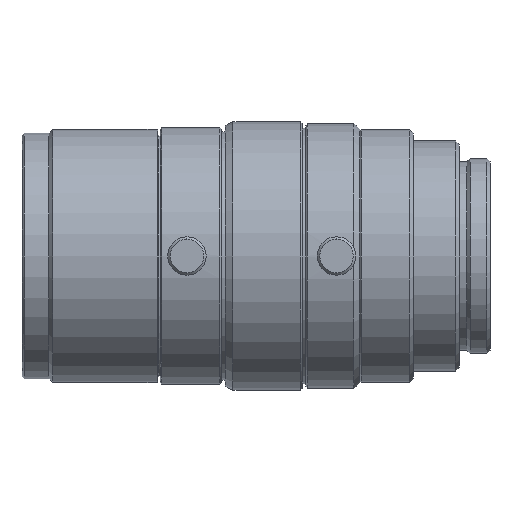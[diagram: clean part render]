
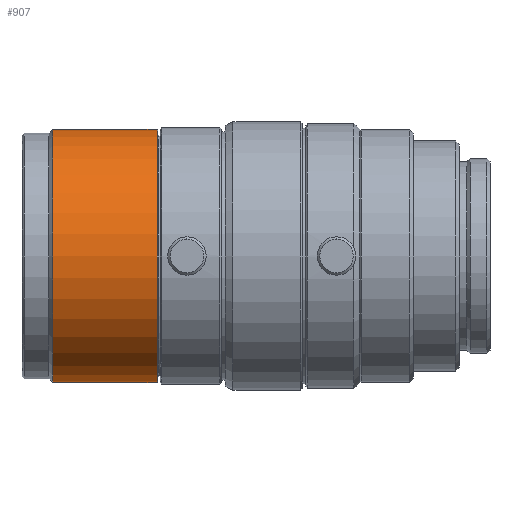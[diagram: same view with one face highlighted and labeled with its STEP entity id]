
A CAD part, front view. The second image highlights one B-rep face of the part: STEP entity #907.
In plain terms, the highlighted cylindrical face has radius 16.5 mm (diameter 33 mm), a partial arc.
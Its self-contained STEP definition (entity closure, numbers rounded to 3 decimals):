
#95 = CIRCLE ( 'NONE', #612, 16.5 ) ;
#155 = DIRECTION ( 'NONE',  ( 1., 0., 0. ) ) ;
#159 = VERTEX_POINT ( 'NONE', #801 ) ;
#348 = ORIENTED_EDGE ( 'NONE', *, *, #1517, .T. ) ;
#522 = ORIENTED_EDGE ( 'NONE', *, *, #2583, .T. ) ;
#523 = EDGE_CURVE ( 'NONE', #873, #159, #95, .T. ) ;
#596 = VECTOR ( 'NONE', #722, 1000. ) ;
#612 = AXIS2_PLACEMENT_3D ( 'NONE', #903, #925, #3444 ) ;
#722 = DIRECTION ( 'NONE',  ( 1., 0., 0. ) ) ;
#780 = CARTESIAN_POINT ( 'NONE',  ( -56.9, 0., 16.5 ) ) ;
#801 = CARTESIAN_POINT ( 'NONE',  ( -56.9, 0., -16.5 ) ) ;
#873 = VERTEX_POINT ( 'NONE', #780 ) ;
#903 = CARTESIAN_POINT ( 'NONE',  ( -56.9, 0., 0. ) ) ;
#907 = ADVANCED_FACE ( 'NONE', ( #3452 ), #2537, .T. ) ;
#925 = DIRECTION ( 'NONE',  ( 1., 0., 0. ) ) ;
#1093 = DIRECTION ( 'NONE',  ( 0., 0., -1. ) ) ;
#1319 = ORIENTED_EDGE ( 'NONE', *, *, #523, .F. ) ;
#1320 = VECTOR ( 'NONE', #2968, 1000. ) ;
#1379 = VERTEX_POINT ( 'NONE', #3524 ) ;
#1412 = DIRECTION ( 'NONE',  ( 0., 0., -1. ) ) ;
#1433 = CIRCLE ( 'NONE', #2521, 16.5 ) ;
#1517 = EDGE_CURVE ( 'NONE', #1379, #159, #2823, .T. ) ;
#1528 = AXIS2_PLACEMENT_3D ( 'NONE', #2408, #155, #1412 ) ;
#1829 = VERTEX_POINT ( 'NONE', #3441 ) ;
#2059 = CARTESIAN_POINT ( 'NONE',  ( 0.026, 0., -16.5 ) ) ;
#2179 = LINE ( 'NONE', #2639, #1320 ) ;
#2408 = CARTESIAN_POINT ( 'NONE',  ( 0.026, 0., 0. ) ) ;
#2521 = AXIS2_PLACEMENT_3D ( 'NONE', #3914, #2981, #1093 ) ;
#2537 = CYLINDRICAL_SURFACE ( 'NONE', #1528, 16.5 ) ;
#2560 = EDGE_CURVE ( 'NONE', #1829, #873, #2179, .T. ) ;
#2583 = EDGE_CURVE ( 'NONE', #1829, #1379, #1433, .T. ) ;
#2639 = CARTESIAN_POINT ( 'NONE',  ( 0.026, 0., 16.5 ) ) ;
#2823 = LINE ( 'NONE', #2059, #596 ) ;
#2840 = ORIENTED_EDGE ( 'NONE', *, *, #2560, .F. ) ;
#2968 = DIRECTION ( 'NONE',  ( 1., 0., 0. ) ) ;
#2981 = DIRECTION ( 'NONE',  ( 1., 0., 0. ) ) ;
#3441 = CARTESIAN_POINT ( 'NONE',  ( -70.5, 0., 16.5 ) ) ;
#3444 = DIRECTION ( 'NONE',  ( 0., 0., -1. ) ) ;
#3452 = FACE_OUTER_BOUND ( 'NONE', #3564, .T. ) ;
#3524 = CARTESIAN_POINT ( 'NONE',  ( -70.5, 0., -16.5 ) ) ;
#3564 = EDGE_LOOP ( 'NONE', ( #2840, #522, #348, #1319 ) ) ;
#3914 = CARTESIAN_POINT ( 'NONE',  ( -70.5, 0., 0. ) ) ;
